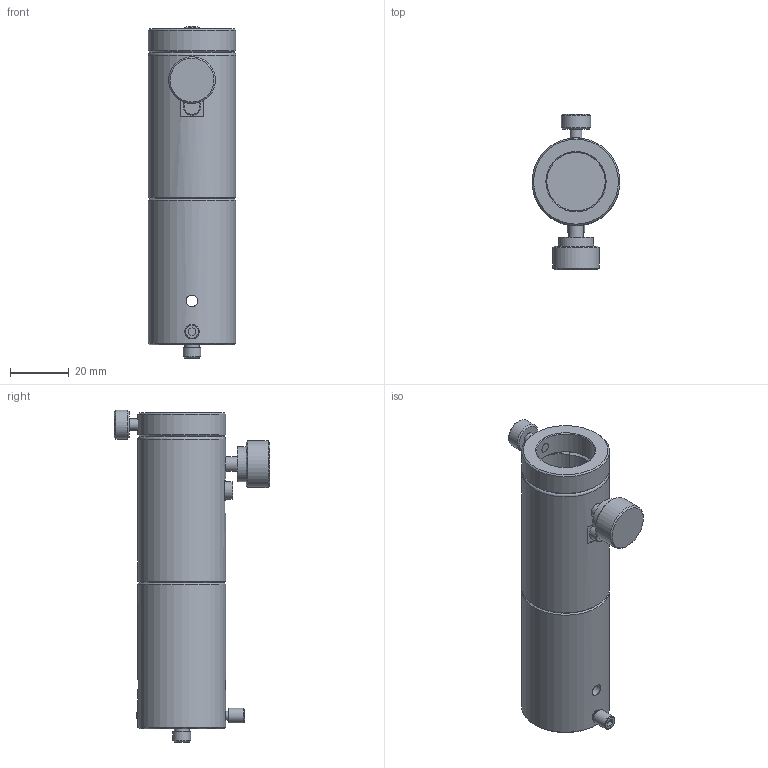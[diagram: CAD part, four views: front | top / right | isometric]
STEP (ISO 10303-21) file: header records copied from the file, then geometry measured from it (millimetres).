
FILE_DESCRIPTION(/* description */ (''),/* implementation_level */ '2;1');
FILE_NAME(/* name */ 'Y:\2_OpticalHard\03_Bases\BRS\BRS-20-□□-M6\BRS-20-100-M6\WEBデータ\BRS-20-100-M6.stp',/* time_stamp */ '2022-09-14T18:07:39+09:00',/* author */ ('e.nonaka'),/* organization */ (''),/* preprocessor_version */ 'ST-DEVELOPER v18.1',/* originating_system */ 'Autodesk Inventor 2021',/* authorisation */ '');
FILE_SCHEMA (('AUTOMOTIVE_DESIGN { 1 0 10303 214 3 1 1 }'));
Length unit declared in the file: millimetre
Products named in the file (1): BRS20100M6-M02-22001-TS01
Bounding box: 30 x 53 x 113.5 mm (x, y, z)
Volume: 44622.5 mm3; surface area: 20056.8 mm2
Topology: 1 solids, 1 shells, 83 faces, 170 edges, 108 vertices
Faces by surface type: plane 32, cylinder 31, cone 18, sphere 1, torus 1
Full cylindrical faces by diameter (mm): 3 x1, 4 x3, 4.134 x1, 5 x3, 6 x2, 10 x1, 12 x1, 16 x1, 20 x1, 25 x1, 30 x3
Entity records: 2669 total; most frequent: CARTESIAN_POINT 757, DIRECTION 391, ORIENTED_EDGE 340, EDGE_CURVE 170, AXIS2_PLACEMENT_3D 164, VERTEX_POINT 108, EDGE_LOOP 106, STYLED_ITEM 84
